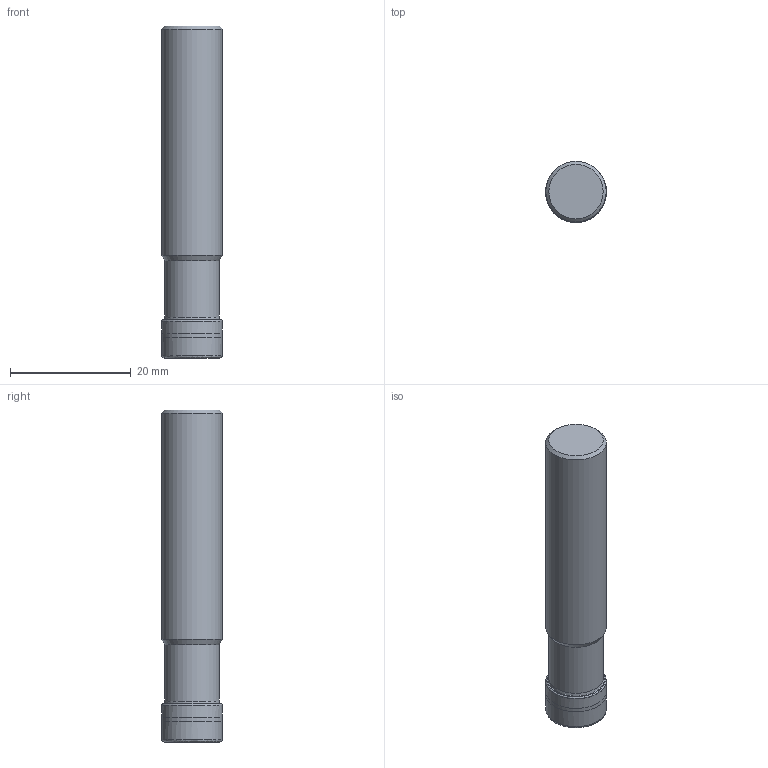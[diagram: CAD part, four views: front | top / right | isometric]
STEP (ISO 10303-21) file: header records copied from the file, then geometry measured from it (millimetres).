
FILE_DESCRIPTION(/* description */ (''),/* implementation_level */ '2;1');
FILE_NAME(/* name */ 'R217.69-1010.0-06-2AN.stp',/* time_stamp */ '2017-10-26T13:19:29+06:00',/* author */ (''),/* organization */ (''),/* preprocessor_version */ 'ST-DEVELOPER v16',/* originating_system */ 'SIEMENS PLM Software NX 11.0',/* authorisation */ '');
FILE_SCHEMA (('AUTOMOTIVE_DESIGN { 1 0 10303 214 3 1 1 1 }'));
Length unit declared in the file: millimetre
Products named in the file (1): inpuCBB1dzrg
Bounding box: 10.09 x 10.09 x 54.99 mm (x, y, z)
Volume: 4518.6 mm3; surface area: 2348.3 mm2
Topology: 3 solids, 3 shells, 45 faces, 118 edges, 77 vertices
Faces by surface type: revolution 32, cone 5, plane 4, cylinder 3, torus 1
Full cylindrical faces by diameter (mm): 9 x1, 9.382 x1, 10 x1
Entity records: 1097 total; most frequent: CARTESIAN_POINT 252, DIRECTION 164, EDGE_LOOP 86, ORIENTED_EDGE 86, FACE_BOUND 82, AXIS2_PLACEMENT_3D 63, ADVANCED_FACE 45, VERTEX_POINT 43
